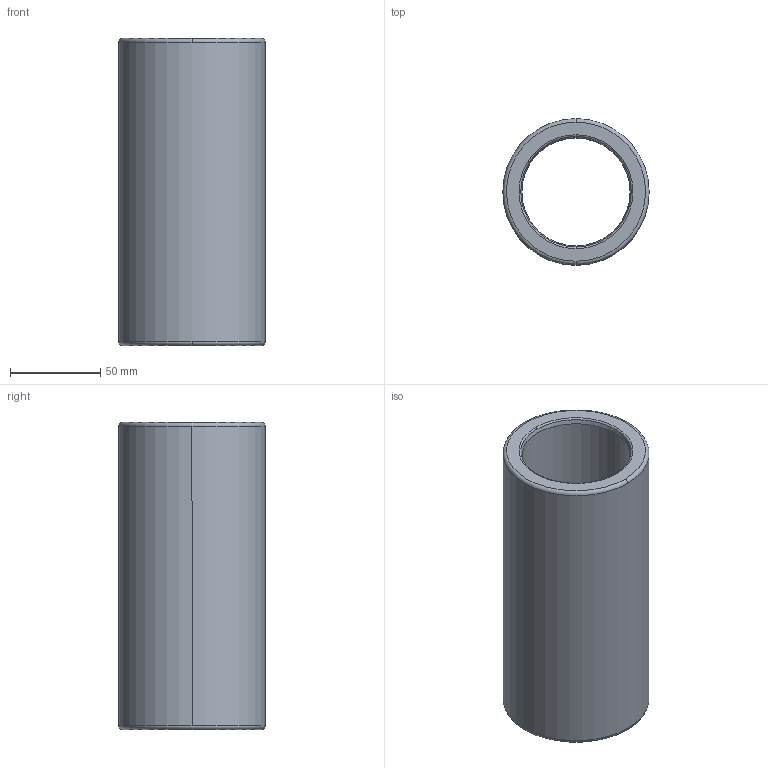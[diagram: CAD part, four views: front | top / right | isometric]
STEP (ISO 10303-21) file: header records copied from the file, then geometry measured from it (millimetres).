
FILE_DESCRIPTION((''),'2;1');
FILE_NAME('B30_048_170.stp','2009-01-12T10:54:32',(''),(''),'Mechanical Desktop 2009','Mechanical Desktop 2009',', , ');
FILE_SCHEMA(('CONFIG_CONTROL_DESIGN'));
Length unit declared in the file: millimetre
Products named in the file (2): Product; blmdl1
Assembly tree (1 placements, depth 2):
  Product
    blmdl1
Bounding box: 80.98 x 80.98 x 170 mm (x, y, z)
Volume: 394673.7 mm3; surface area: 79149.6 mm2
Topology: 1 solids, 1 shells, 18 faces, 48 edges, 32 vertices
Faces by surface type: torus 8, cylinder 4, cone 4, plane 2
Entity records: 705 total; most frequent: DIRECTION 128, CARTESIAN_POINT 100, ORIENTED_EDGE 96, AXIS2_PLACEMENT_3D 60, EDGE_CURVE 48, CIRCLE 40, VERTEX_POINT 32, EDGE_LOOP 20
